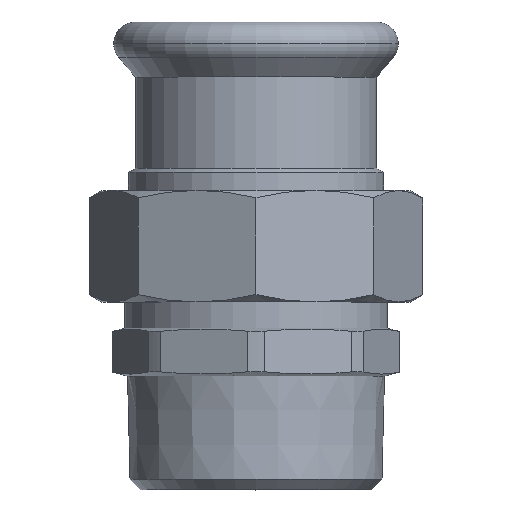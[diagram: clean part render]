
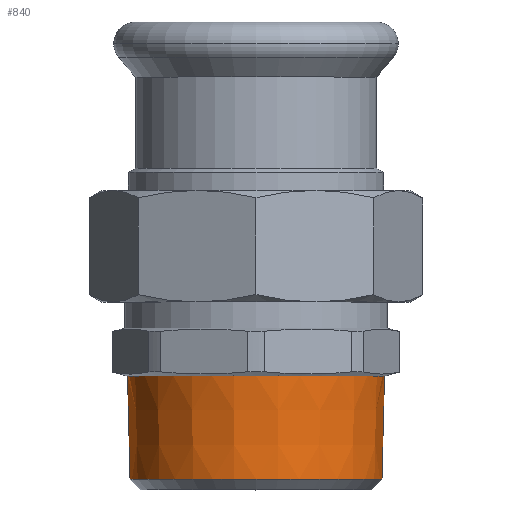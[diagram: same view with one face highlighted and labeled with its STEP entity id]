
A CAD part, top view. The second image highlights one B-rep face of the part: STEP entity #840.
In plain terms, the highlighted conical face has half-angle 1.378 degrees and reference radius 24.173 mm.
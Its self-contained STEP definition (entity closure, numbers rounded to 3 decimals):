
#430=CARTESIAN_POINT('',(377.772,2.003,0.));
#440=DIRECTION('',(0.,1.,0.));
#450=DIRECTION('',(1.,0.,0.));
#460=AXIS2_PLACEMENT_3D('',#430,#440,#450);
#470=CONICAL_SURFACE('',#460,24.173,0.024);
#480=CARTESIAN_POINT('',(353.599,2.003,
0.));
#490=DIRECTION('',(-0.024,1.,
0.));
#500=VECTOR('',#490,1004.964);
#510=LINE('',#480,#500);
#520=CARTESIAN_POINT('',(354.067,-17.453,
0.));
#530=VERTEX_POINT('',#520);
#540=CARTESIAN_POINT('',(353.599,2.003,
0.));
#550=VERTEX_POINT('',#540);
#560=EDGE_CURVE('',#530,#550,#510,.T.);
#570=ORIENTED_EDGE('',*,*,#560,.F.);
#580=CARTESIAN_POINT('',(377.772,2.003,0.));
#590=DIRECTION('',(0.,1.,0.));
#600=DIRECTION('',(1.,0.,0.));
#610=AXIS2_PLACEMENT_3D('',#580,#590,#600);
#620=CIRCLE('',#610,24.173);
#630=CARTESIAN_POINT('',(401.945,2.003,0.));
#640=VERTEX_POINT('',#630);
#650=EDGE_CURVE('',#550,#640,#620,.T.);
#660=ORIENTED_EDGE('',*,*,#650,.F.);
#670=CARTESIAN_POINT('',(401.945,2.003,0.));
#680=DIRECTION('',(0.024,1.,0.));
#690=VECTOR('',#680,1004.964);
#700=LINE('',#670,#690);
#710=CARTESIAN_POINT('',(401.477,-17.453,0.));
#720=VERTEX_POINT('',#710);
#730=EDGE_CURVE('',#720,#640,#700,.T.);
#740=ORIENTED_EDGE('',*,*,#730,.T.);
#750=CARTESIAN_POINT('',(377.772,-17.453,0.));
#760=DIRECTION('',(0.,1.,0.));
#770=DIRECTION('',(1.,0.,0.));
#780=AXIS2_PLACEMENT_3D('',#750,#760,#770);
#790=CIRCLE('',#780,23.705);
#800=EDGE_CURVE('',#530,#720,#790,.T.);
#810=ORIENTED_EDGE('',*,*,#800,.T.);
#820=EDGE_LOOP('',(#810,#740,#660,#570));
#830=FACE_OUTER_BOUND('',#820,.T.);
#840=ADVANCED_FACE('',(#830),#470,.T.);
